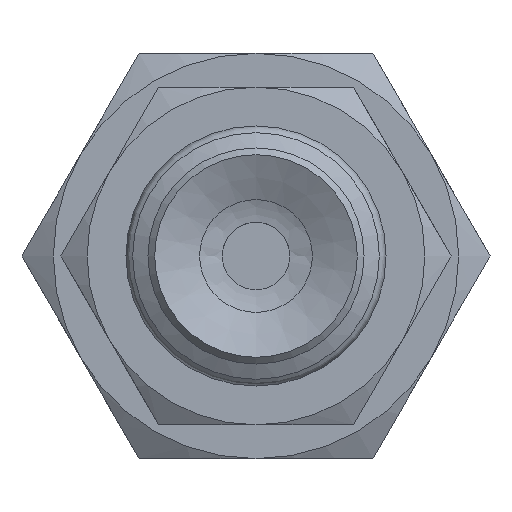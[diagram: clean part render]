
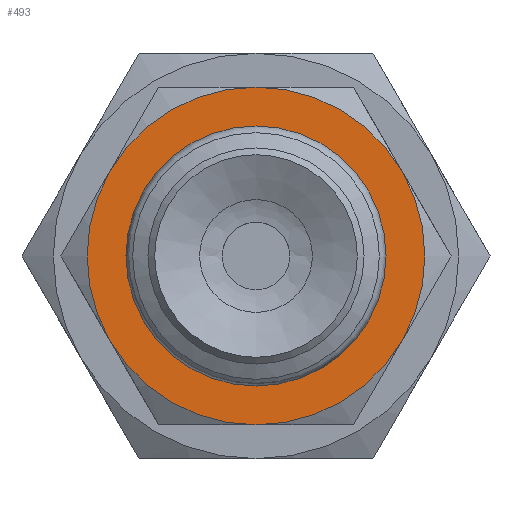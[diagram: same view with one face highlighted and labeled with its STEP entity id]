
A CAD part, front view. The second image highlights one B-rep face of the part: STEP entity #493.
In plain terms, the highlighted planar face has unit normal (0, -1, 0).
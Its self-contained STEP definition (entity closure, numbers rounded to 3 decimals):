
#493=ADVANCED_FACE('',(#740,#741),#742,.T.);
#740=FACE_BOUND('',#1024,.T.);
#741=FACE_OUTER_BOUND('',#1025,.T.);
#742=PLANE('',#1026);
#1024=EDGE_LOOP('',(#1776));
#1025=EDGE_LOOP('',(#1777,#1778,#1779,#1780,#1781,#1782));
#1026=AXIS2_PLACEMENT_3D('',#1783,#1784,#1785);
#1776=ORIENTED_EDGE('',*,*,#2043,.F.);
#1777=ORIENTED_EDGE('',*,*,#1998,.T.);
#1778=ORIENTED_EDGE('',*,*,#1989,.T.);
#1779=ORIENTED_EDGE('',*,*,#2042,.T.);
#1780=ORIENTED_EDGE('',*,*,#2006,.T.);
#1781=ORIENTED_EDGE('',*,*,#1973,.T.);
#1782=ORIENTED_EDGE('',*,*,#1995,.T.);
#1783=CARTESIAN_POINT('',(2.0,0.,0.0));
#1784=DIRECTION('',(0.0,-1.0,0.0));
#1785=DIRECTION('',(0.0,0.0,-1.0));
#1973=EDGE_CURVE('',#2234,#2248,#2250,.T.);
#1989=EDGE_CURVE('',#2266,#2277,#2279,.T.);
#1995=EDGE_CURVE('',#2248,#2280,#2289,.T.);
#1998=EDGE_CURVE('',#2280,#2266,#2292,.T.);
#2006=EDGE_CURVE('',#2251,#2234,#2304,.T.);
#2042=EDGE_CURVE('',#2277,#2251,#2367,.T.);
#2043=EDGE_CURVE('',#2368,#2368,#2369,.T.);
#2234=VERTEX_POINT('',#2870);
#2248=VERTEX_POINT('',#2896);
#2250=CIRCLE('',#2900,5.0);
#2251=VERTEX_POINT('',#2901);
#2266=VERTEX_POINT('',#2927);
#2277=VERTEX_POINT('',#2948);
#2279=CIRCLE('',#2952,5.0);
#2280=VERTEX_POINT('',#2953);
#2289=CIRCLE('',#2971,5.0);
#2292=CIRCLE('',#2978,5.0);
#2304=CIRCLE('',#3008,5.0);
#2367=CIRCLE('',#3133,5.0);
#2368=VERTEX_POINT('',#3134);
#2369=CIRCLE('',#3135,2.0);
#2870=CARTESIAN_POINT('',(-4.33,0.,2.5));
#2896=CARTESIAN_POINT('',(-4.33,0.,-2.5));
#2900=AXIS2_PLACEMENT_3D('',#3335,#3336,#3337);
#2901=CARTESIAN_POINT('',(0.0,0.,5.0));
#2927=CARTESIAN_POINT('',(4.33,0.,-2.5));
#2948=CARTESIAN_POINT('',(4.33,0.,2.5));
#2952=AXIS2_PLACEMENT_3D('',#3347,#3348,#3349);
#2953=CARTESIAN_POINT('',(0.0,0.,-5.0));
#2971=AXIS2_PLACEMENT_3D('',#3351,#3352,#3353);
#2978=AXIS2_PLACEMENT_3D('',#3354,#3355,#3356);
#3008=AXIS2_PLACEMENT_3D('',#3366,#3367,#3368);
#3133=AXIS2_PLACEMENT_3D('',#3430,#3431,#3432);
#3134=CARTESIAN_POINT('',(0.0,0.,-2.0));
#3135=AXIS2_PLACEMENT_3D('',#3433,#3434,#3435);
#3335=CARTESIAN_POINT('',(0.0,0.,0.0));
#3336=DIRECTION('',(0.0,-1.0,0.0));
#3337=DIRECTION('',(0.0,0.0,-1.0));
#3347=CARTESIAN_POINT('',(0.0,0.,0.0));
#3348=DIRECTION('',(0.0,-1.0,0.0));
#3349=DIRECTION('',(0.0,0.0,-1.0));
#3351=CARTESIAN_POINT('',(0.0,0.,0.0));
#3352=DIRECTION('',(0.0,-1.0,0.0));
#3353=DIRECTION('',(0.0,0.0,-1.0));
#3354=CARTESIAN_POINT('',(0.0,0.,0.0));
#3355=DIRECTION('',(0.0,-1.0,0.0));
#3356=DIRECTION('',(0.0,0.0,-1.0));
#3366=CARTESIAN_POINT('',(0.0,0.,0.0));
#3367=DIRECTION('',(0.0,-1.0,0.0));
#3368=DIRECTION('',(0.0,0.0,-1.0));
#3430=CARTESIAN_POINT('',(0.0,0.,0.0));
#3431=DIRECTION('',(0.0,-1.0,0.0));
#3432=DIRECTION('',(0.0,0.0,-1.0));
#3433=CARTESIAN_POINT('',(0.0,0.,0.0));
#3434=DIRECTION('',(0.0,-1.0,0.0));
#3435=DIRECTION('',(0.0,0.0,-1.0));
